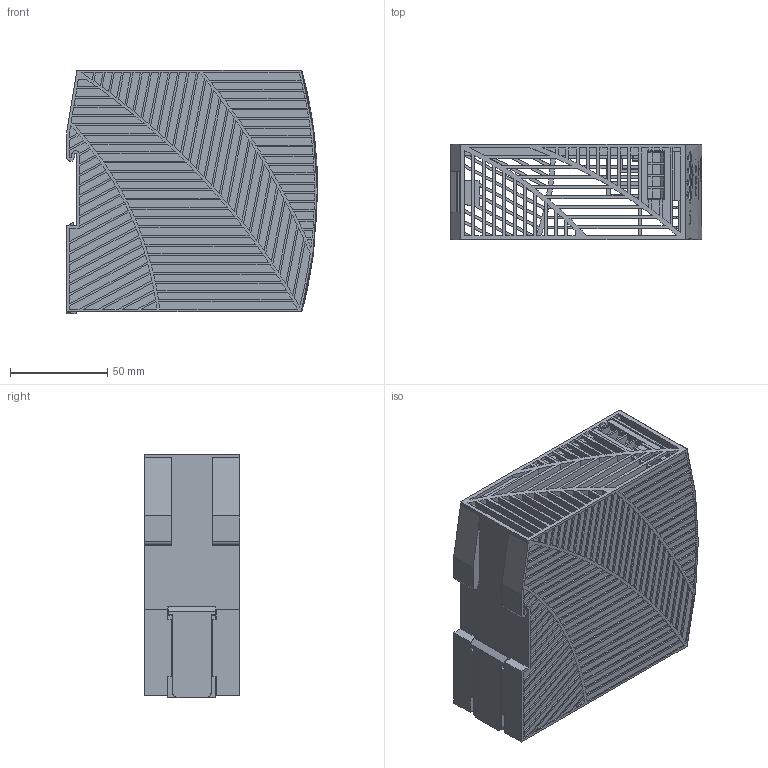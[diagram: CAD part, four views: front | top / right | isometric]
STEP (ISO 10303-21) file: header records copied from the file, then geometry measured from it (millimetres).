
FILE_DESCRIPTION(/* description */ (''),/* implementation_level */ '2;1');
FILE_NAME(/* name */ 'C:\Users\rahns\Desktop\Frodl\SD1CS240-241CSR1_SC_2014-10-30.dxf.stp',/* time_stamp */ '2014-10-30T08:02:48+01:00',/* author */ ('rahns'),/* organization */ (''),/* preprocessor_version */ 'ST-DEVELOPER v15.2',/* originating_system */ 'Autodesk Inventor 2014',/* authorisation */ '');
FILE_SCHEMA (('AUTOMOTIVE_DESIGN { 1 0 10303 214 3 1 1 }'));
Products named in the file (10): HOUSING BODY 412.00; HOUSING COVER 411.00; SLIDER 411.00; LED GN; POTENTIOMETER; XT-LP2SW-R6; XT-LP4BK_L-DS; XT-LP3BK-R-D2 ; FRONTFOIL 412.01; 412.01
Bounding box: 128.95 x 49 x 125 mm (x, y, z)
Volume: 120611.1 mm3; surface area: 145826.9 mm2
Topology: 9 solids, 9 shells, 2096 faces, 5790 edges, 3852 vertices
Faces by surface type: plane 1460, cylinder 375, bspline 247, sphere 6, torus 4, cone 4
Full cylindrical faces by diameter (mm): 0.2 x1, 0.3 x4, 0.5 x3, 2.7 x1, 3.2 x1, 3.4 x1, 3.8 x1, 4.6 x1, 5 x16, 5.15 x3, 5.2 x1
Entity records: 74299 total; most frequent: CARTESIAN_POINT 21033, ORIENTED_EDGE 11460, DIRECTION 9937, EDGE_CURVE 5730, LINE 4181, VECTOR 4181, VERTEX_POINT 3830, AXIS2_PLACEMENT_3D 2878
